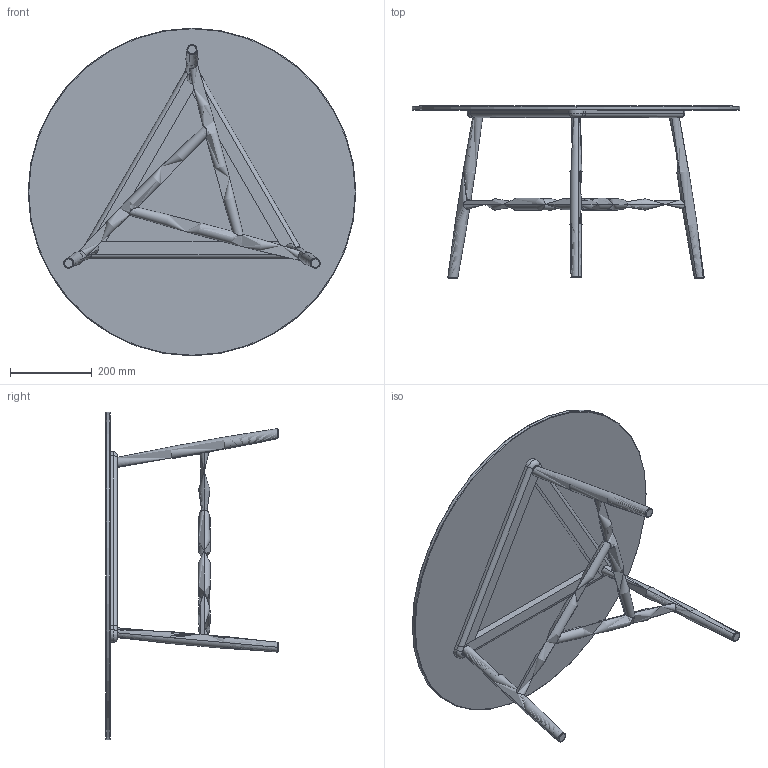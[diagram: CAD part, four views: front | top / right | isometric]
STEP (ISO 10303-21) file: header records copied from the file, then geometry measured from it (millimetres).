
FILE_DESCRIPTION (( 'STEP AP203' ), '1' );
FILE_NAME ('TRIA COFFE TABLE.STEP', '2020-07-09T07:51:49', ( '' ), ( '' ), 'SwSTEP 2.0', 'SolidWorks 2020', '' );
FILE_SCHEMA (( 'CONFIG_CONTROL_DESIGN' ));
Length unit declared in the file: millimetre
Products named in the file (3): Group1^coffee table TRIA_defeature; Ploca-1^coffee table TRIA_defeature; TRIA COFFE TABLE
Assembly tree (2 placements, depth 2):
  TRIA COFFE TABLE
    Group1^coffee table TRIA_defeature
    Ploca-1^coffee table TRIA_defeature
Bounding box: 800 x 420 x 800 mm (x, y, z)
Volume: 7533163.2 mm3; surface area: 1398912.9 mm2
Topology: 2 solids, 2 shells, 59 faces, 137 edges, 83 vertices
Faces by surface type: plane 23, torus 15, cylinder 11, bspline 6, cone 4
Entity records: 4275 total; most frequent: CARTESIAN_POINT 2682, ORIENTED_EDGE 274, DIRECTION 264, EDGE_CURVE 137, AXIS2_PLACEMENT_3D 108, VERTEX_POINT 83, EDGE_LOOP 68, ADVANCED_FACE 59
